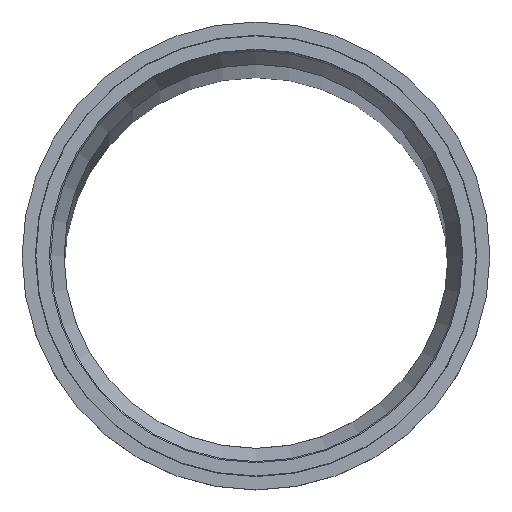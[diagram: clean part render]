
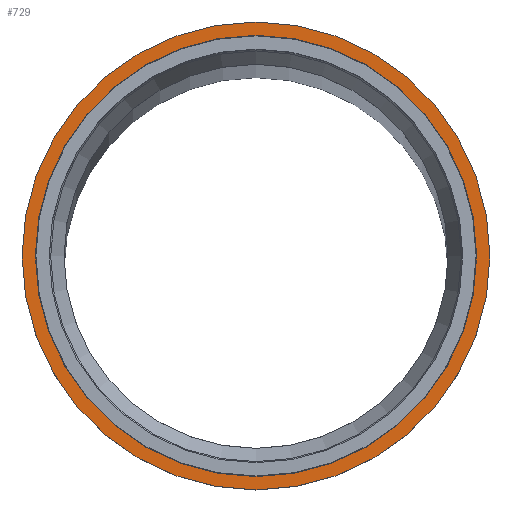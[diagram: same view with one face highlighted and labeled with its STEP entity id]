
A CAD part, top view. The second image highlights one B-rep face of the part: STEP entity #729.
In plain terms, the highlighted planar face has unit normal (0, 0, 1) as drawn and (1, 0, 0) by its records, which use the part's own axes.
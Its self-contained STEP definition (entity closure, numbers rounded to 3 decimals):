
#110=PLANE($,#811);
#138=FACE_BOUND($,#249,.T.);
#139=FACE_BOUND($,#250,.T.);
#249=EDGE_LOOP($,(#620));
#250=EDGE_LOOP($,(#621));
#299=CIRCLE($,#810,91.3);
#300=CIRCLE($,#812,85.9);
#370=VERTEX_POINT($,#1943);
#371=VERTEX_POINT($,#1946);
#457=EDGE_CURVE($,#370,#370,#299,.T.);
#458=EDGE_CURVE($,#371,#371,#300,.T.);
#620=ORIENTED_EDGE($,*,*,#458,.F.);
#621=ORIENTED_EDGE($,*,*,#457,.T.);
#729=ADVANCED_FACE($,(#138,#139),#110,.T.);
#810=AXIS2_PLACEMENT_3D($,#1944,#967,#968);
#811=AXIS2_PLACEMENT_3D($,#1945,#969,#970);
#812=AXIS2_PLACEMENT_3D($,#1947,#971,#972);
#967=DIRECTION('center_axis',(1.,0.,0.));
#968=DIRECTION('ref_axis',(0.,1.,0.));
#969=DIRECTION('center_axis',(1.,0.,0.));
#970=DIRECTION('ref_axis',(0.,0.,-1.));
#971=DIRECTION('center_axis',(1.,0.,0.));
#972=DIRECTION('ref_axis',(0.,1.,0.));
#1943=CARTESIAN_POINT('',(90.7,91.3,0.));
#1944=CARTESIAN_POINT('Origin',(90.7,0.,0.));
#1945=CARTESIAN_POINT('Origin',(90.7,88.6,0.));
#1946=CARTESIAN_POINT('',(90.7,85.9,0.));
#1947=CARTESIAN_POINT('Origin',(90.7,0.,0.));
